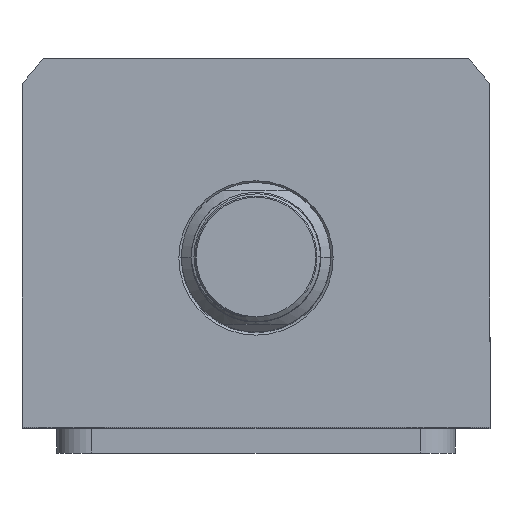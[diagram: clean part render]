
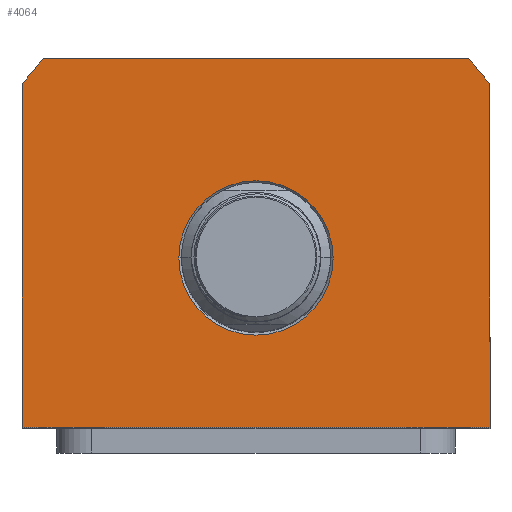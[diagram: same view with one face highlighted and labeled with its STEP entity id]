
A CAD part, top view. The second image highlights one B-rep face of the part: STEP entity #4064.
In plain terms, the highlighted planar face has unit normal (0, 0, 1).
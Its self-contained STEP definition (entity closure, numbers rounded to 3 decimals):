
#506 = CARTESIAN_POINT ( 'NONE',  ( -47., -34., 72.5 ) ) ;
#862 = EDGE_LOOP ( 'NONE', ( #14469, #13603, #6702, #5284, #9807, #11242 ) ) ;
#875 = DIRECTION ( 'NONE',  ( -1., 0., 0. ) ) ;
#1302 = FACE_OUTER_BOUND ( 'NONE', #862, .T. ) ;
#1672 = EDGE_LOOP ( 'NONE', ( #8787, #14275 ) ) ;
#1771 = CIRCLE ( 'NONE', #8689, 58.5 ) ;
#2222 = CARTESIAN_POINT ( 'NONE',  ( -15.5, 0., 72.5 ) ) ;
#2240 = VECTOR ( 'NONE', #8789, 1000. ) ;
#2682 = EDGE_CURVE ( 'NONE', #6227, #18587, #1771, .T. ) ;
#2956 = DIRECTION ( 'NONE',  ( 1., 0., 0. ) ) ;
#2985 = DIRECTION ( 'NONE',  ( 0., 0., 1. ) ) ;
#3039 = AXIS2_PLACEMENT_3D ( 'NONE', #13395, #10308, #5749 ) ;
#3050 = VECTOR ( 'NONE', #19401, 1000. ) ;
#3682 = CIRCLE ( 'NONE', #19159, 15.5 ) ;
#3741 = DIRECTION ( 'NONE',  ( 0., 1., 0. ) ) ;
#4025 = DIRECTION ( 'NONE',  ( 1., 0., 0. ) ) ;
#4064 = ADVANCED_FACE ( 'NONE', ( #9848, #1302 ), #14813, .T. ) ;
#4509 = DIRECTION ( 'NONE',  ( 1., 0., 0. ) ) ;
#5284 = ORIENTED_EDGE ( 'NONE', *, *, #12765, .T. ) ;
#5369 = VERTEX_POINT ( 'NONE', #8846 ) ;
#5607 = LINE ( 'NONE', #18983, #17088 ) ;
#5749 = DIRECTION ( 'NONE',  ( 1., 0., 0. ) ) ;
#5860 = EDGE_CURVE ( 'NONE', #18587, #7967, #19711, .T. ) ;
#6227 = VERTEX_POINT ( 'NONE', #7647 ) ;
#6272 = CIRCLE ( 'NONE', #3039, 15.5 ) ;
#6702 = ORIENTED_EDGE ( 'NONE', *, *, #11833, .T. ) ;
#7647 = CARTESIAN_POINT ( 'NONE',  ( -42.688, 40., 72.5 ) ) ;
#7960 = CARTESIAN_POINT ( 'NONE',  ( -47., 34.832, 72.5 ) ) ;
#7967 = VERTEX_POINT ( 'NONE', #506 ) ;
#8294 = CARTESIAN_POINT ( 'NONE',  ( 47., -34., 72.5 ) ) ;
#8441 = CARTESIAN_POINT ( 'NONE',  ( -42.688, 40., 72.5 ) ) ;
#8650 = LINE ( 'NONE', #8294, #2240 ) ;
#8689 = AXIS2_PLACEMENT_3D ( 'NONE', #13681, #2985, #4509 ) ;
#8766 = CARTESIAN_POINT ( 'NONE',  ( -47., -34., 72.5 ) ) ;
#8787 = ORIENTED_EDGE ( 'NONE', *, *, #11123, .T. ) ;
#8789 = DIRECTION ( 'NONE',  ( 1., 0., 0. ) ) ;
#8846 = CARTESIAN_POINT ( 'NONE',  ( 47., 34.832, 72.5 ) ) ;
#8861 = CARTESIAN_POINT ( 'NONE',  ( 42.688, 40., 72.5 ) ) ;
#8862 = CARTESIAN_POINT ( 'NONE',  ( 47., -34., 72.5 ) ) ;
#8988 = DIRECTION ( 'NONE',  ( 1., 0., 0. ) ) ;
#9185 = LINE ( 'NONE', #8441, #13179 ) ;
#9503 = VERTEX_POINT ( 'NONE', #12977 ) ;
#9807 = ORIENTED_EDGE ( 'NONE', *, *, #2682, .T. ) ;
#9848 = FACE_BOUND ( 'NONE', #1672, .T. ) ;
#10308 = DIRECTION ( 'NONE',  ( 0., 0., -1. ) ) ;
#10548 = CARTESIAN_POINT ( 'NONE',  ( 0., 0., 72.5 ) ) ;
#10751 = DIRECTION ( 'NONE',  ( 0., 0., -1. ) ) ;
#11123 = EDGE_CURVE ( 'NONE', #9503, #19019, #6272, .T. ) ;
#11242 = ORIENTED_EDGE ( 'NONE', *, *, #5860, .T. ) ;
#11710 = EDGE_CURVE ( 'NONE', #7967, #18328, #8650, .T. ) ;
#11753 = CIRCLE ( 'NONE', #16830, 58.5 ) ;
#11833 = EDGE_CURVE ( 'NONE', #5369, #13953, #11753, .T. ) ;
#12765 = EDGE_CURVE ( 'NONE', #13953, #6227, #9185, .T. ) ;
#12977 = CARTESIAN_POINT ( 'NONE',  ( 15.5, 0., 72.5 ) ) ;
#13179 = VECTOR ( 'NONE', #875, 1000. ) ;
#13395 = CARTESIAN_POINT ( 'NONE',  ( 0., 0., 72.5 ) ) ;
#13603 = ORIENTED_EDGE ( 'NONE', *, *, #18980, .T. ) ;
#13618 = AXIS2_PLACEMENT_3D ( 'NONE', #19139, #16347, #4025 ) ;
#13681 = CARTESIAN_POINT ( 'NONE',  ( 0., 0., 72.5 ) ) ;
#13693 = CARTESIAN_POINT ( 'NONE',  ( 0., 0., 72.5 ) ) ;
#13953 = VERTEX_POINT ( 'NONE', #8861 ) ;
#14275 = ORIENTED_EDGE ( 'NONE', *, *, #14834, .T. ) ;
#14469 = ORIENTED_EDGE ( 'NONE', *, *, #11710, .T. ) ;
#14813 = PLANE ( 'NONE',  #13618 ) ;
#14834 = EDGE_CURVE ( 'NONE', #19019, #9503, #3682, .T. ) ;
#16347 = DIRECTION ( 'NONE',  ( 0., 0., 1. ) ) ;
#16830 = AXIS2_PLACEMENT_3D ( 'NONE', #13693, #18109, #8988 ) ;
#17088 = VECTOR ( 'NONE', #3741, 1000. ) ;
#18109 = DIRECTION ( 'NONE',  ( 0., 0., 1. ) ) ;
#18328 = VERTEX_POINT ( 'NONE', #8862 ) ;
#18587 = VERTEX_POINT ( 'NONE', #7960 ) ;
#18980 = EDGE_CURVE ( 'NONE', #18328, #5369, #5607, .T. ) ;
#18983 = CARTESIAN_POINT ( 'NONE',  ( 47., 34.832, 72.5 ) ) ;
#19019 = VERTEX_POINT ( 'NONE', #2222 ) ;
#19139 = CARTESIAN_POINT ( 'NONE',  ( 0., 0., 72.5 ) ) ;
#19159 = AXIS2_PLACEMENT_3D ( 'NONE', #10548, #10751, #2956 ) ;
#19401 = DIRECTION ( 'NONE',  ( 0., -1., 0. ) ) ;
#19711 = LINE ( 'NONE', #8766, #3050 ) ;
